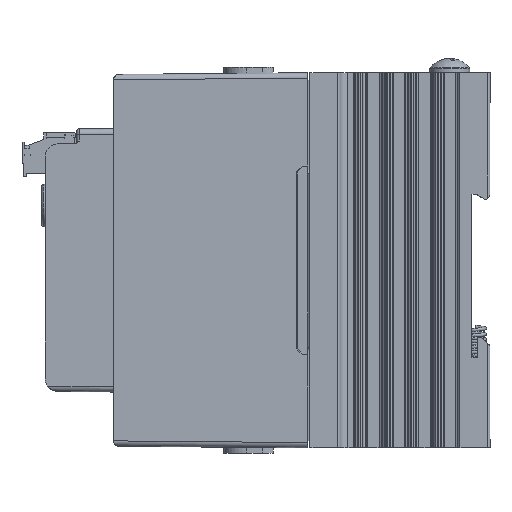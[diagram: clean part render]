
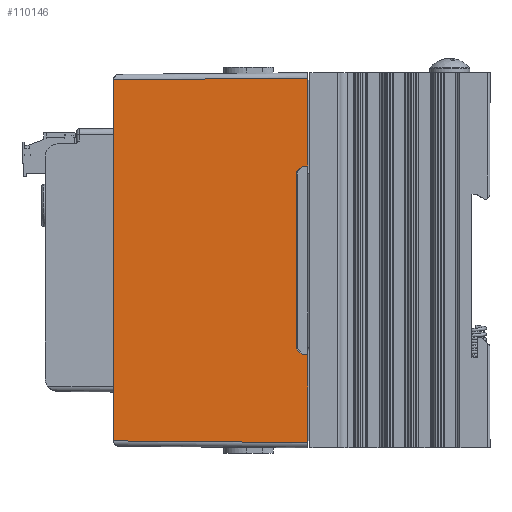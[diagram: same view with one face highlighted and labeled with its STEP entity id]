
A CAD part, left-side view. The second image highlights one B-rep face of the part: STEP entity #110146.
In plain terms, the highlighted planar face has unit normal (-1, 0.009, 0) as drawn and (-1, 0, 0.009) by its records, which use the part's own axes.
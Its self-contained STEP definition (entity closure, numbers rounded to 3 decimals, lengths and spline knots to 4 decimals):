
#5544=PLANE('',#118525);
#10929=FACE_OUTER_BOUND('',#17090,.T.);
#17090=EDGE_LOOP('',(#95416,#95417,#95418,#95419,#95420,#95421,#95422,#95423,
#95424,#95425));
#29702=LINE('',#195629,#41810);
#30497=LINE('',#197599,#42605);
#30500=LINE('',#197604,#42608);
#30502=LINE('',#197609,#42610);
#30508=LINE('',#197620,#42616);
#30512=LINE('',#197628,#42620);
#30520=LINE('',#197648,#42628);
#30521=LINE('',#197650,#42629);
#30522=LINE('',#197652,#42630);
#30523=LINE('',#197653,#42631);
#41810=VECTOR('',#140655,0.3937);
#42605=VECTOR('',#142508,0.3937);
#42608=VECTOR('',#142513,0.3937);
#42610=VECTOR('',#142517,0.3937);
#42616=VECTOR('',#142527,0.3937);
#42620=VECTOR('',#142535,0.3937);
#42628=VECTOR('',#142555,0.3937);
#42629=VECTOR('',#142558,0.3937);
#42630=VECTOR('',#142559,0.3937);
#42631=VECTOR('',#142560,0.3937);
#53042=VERTEX_POINT('',#195626);
#53043=VERTEX_POINT('',#195628);
#53586=VERTEX_POINT('',#197596);
#53587=VERTEX_POINT('',#197598);
#53588=VERTEX_POINT('',#197602);
#53589=VERTEX_POINT('',#197606);
#53590=VERTEX_POINT('',#197608);
#53593=VERTEX_POINT('',#197618);
#53601=VERTEX_POINT('',#197646);
#53602=VERTEX_POINT('',#197651);
#67170=EDGE_CURVE('',#53043,#53042,#29702,.T.);
#68124=EDGE_CURVE('',#53587,#53586,#30497,.T.);
#68127=EDGE_CURVE('',#53586,#53588,#30500,.T.);
#68129=EDGE_CURVE('',#53590,#53589,#30502,.T.);
#68135=EDGE_CURVE('',#53588,#53593,#30508,.T.);
#68139=EDGE_CURVE('',#53593,#53590,#30512,.T.);
#68149=EDGE_CURVE('',#53589,#53601,#30520,.T.);
#68150=EDGE_CURVE('',#53043,#53601,#30521,.T.);
#68151=EDGE_CURVE('',#53602,#53042,#30522,.T.);
#68152=EDGE_CURVE('',#53602,#53587,#30523,.T.);
#95416=ORIENTED_EDGE('',*,*,#68124,.T.);
#95417=ORIENTED_EDGE('',*,*,#68127,.T.);
#95418=ORIENTED_EDGE('',*,*,#68135,.T.);
#95419=ORIENTED_EDGE('',*,*,#68139,.T.);
#95420=ORIENTED_EDGE('',*,*,#68129,.T.);
#95421=ORIENTED_EDGE('',*,*,#68149,.T.);
#95422=ORIENTED_EDGE('',*,*,#68150,.F.);
#95423=ORIENTED_EDGE('',*,*,#67170,.T.);
#95424=ORIENTED_EDGE('',*,*,#68151,.F.);
#95425=ORIENTED_EDGE('',*,*,#68152,.T.);
#110146=ADVANCED_FACE('',(#10929),#5544,.T.);
#118525=AXIS2_PLACEMENT_3D('',#197649,#142556,#142557);
#140655=DIRECTION('',(0.,1.,0.));
#142508=DIRECTION('',(0.009,-0.009,1.));
#142513=DIRECTION('',(0.006,-0.71,0.704));
#142517=DIRECTION('',(-0.009,-0.009,-1.));
#142527=DIRECTION('',(0.,-1.,0.));
#142535=DIRECTION('',(-0.006,-0.71,-0.704));
#142555=DIRECTION('',(0.,-1.,0.));
#142556=DIRECTION('center_axis',(-1.,0.,
0.009));
#142557=DIRECTION('ref_axis',(0.,-1.,0.));
#142558=DIRECTION('',(-0.009,-0.009,-1.));
#142559=DIRECTION('',(0.009,-0.009,1.));
#142560=DIRECTION('',(0.,-1.,0.));
#195626=CARTESIAN_POINT('',(0.0158,3.4342,1.811));
#195628=CARTESIAN_POINT('',(0.0158,0.0658,1.811));
#195629=CARTESIAN_POINT('',(0.0158,3.5,1.811));
#197596=CARTESIAN_POINT('',(0.0005,2.6295,0.0521));
#197598=CARTESIAN_POINT('',(0.,2.63,0.));
#197599=CARTESIAN_POINT('',(0.0001,2.6299,0.0115));
#197602=CARTESIAN_POINT('',(0.0009,2.5762,0.105));
#197604=CARTESIAN_POINT('',(0.0061,1.9795,0.6965));
#197606=CARTESIAN_POINT('',(0.,0.87,0.));
#197608=CARTESIAN_POINT('',(0.0005,0.8705,0.0521));
#197609=CARTESIAN_POINT('',(0.0002,0.8702,0.0223));
#197618=CARTESIAN_POINT('',(0.0009,0.9238,0.105));
#197620=CARTESIAN_POINT('',(0.0009,1.2881,0.105));
#197628=CARTESIAN_POINT('',(-0.0013,0.6646,-0.152));
#197646=CARTESIAN_POINT('',(0.,0.05,0.));
#197648=CARTESIAN_POINT('',(0.,3.5,0.));
#197649=CARTESIAN_POINT('Origin',(0.,0.,0.));
#197650=CARTESIAN_POINT('',(0.0001,0.0501,0.0118));
#197651=CARTESIAN_POINT('',(0.,3.45,0.));
#197652=CARTESIAN_POINT('',(0.0001,3.4499,0.0148));
#197653=CARTESIAN_POINT('',(0.,3.5,0.));
